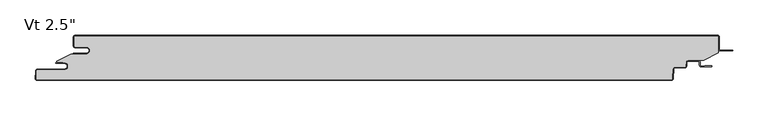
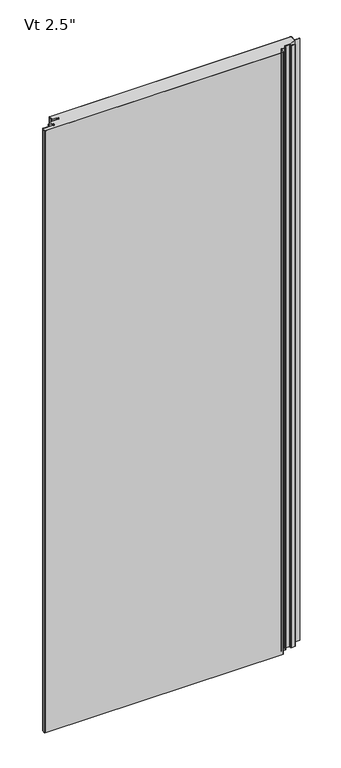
"""IFC4 building model written with IfcOpenShell, lengths in millimetres: plate geometry."""

import ifcopenshell
import ifcopenshell.guid

model = None  # the IFC model being written
_history = None  # IfcOwnerHistory: only IFC2X3 demands one
_inside = {}  # id of a spatial element -> (the spatial element, [elements in it])
_under = {}  # id of a project, library or spatial element -> (it, [spatial elements below it])
_declared = {}  # id of a project -> (the project, [libraries it declares])
_typed = {}  # id of a type object -> (the type object, [elements of that type])
_made_of = {}  # id of a material, layer set ... -> (it, [elements and type objects made of it])


def new_model(schema):
    """Start an empty IFC model of exactly this schema.

    Asked for "IFC4X3", IfcOpenShell would pick the latest addendum, in which some entities
    have other attributes; the version numbers below select the first issue.
    IFC2X3 requires an IfcOwnerHistory on every rooted entity: one is made here for all.
    """
    global model, _history
    if schema == "IFC4X3":
        model = ifcopenshell.file(schema_version=(4, 3, 0, 0))
    else:
        model = ifcopenshell.file(schema=schema)
    _inside.clear()
    _under.clear()
    _declared.clear()
    _typed.clear()
    _made_of.clear()
    _history = None
    if model.schema == "IFC2X3":
        org = make("IfcOrganization", Name="unknown")
        user = make(
            "IfcPersonAndOrganization",
            ThePerson=make("IfcPerson", FamilyName="unknown"),
            TheOrganization=org,
        )
        app = make(
            "IfcApplication",
            ApplicationDeveloper=org,
            Version="unknown",
            ApplicationFullName="unknown",
            ApplicationIdentifier="unknown",
        )
        _history = make(
            "IfcOwnerHistory",
            OwningUser=user,
            OwningApplication=app,
            ChangeAction="ADDED",
            CreationDate=0,
        )
    return model


def make(cls, **values):
    """One entity of the class cls with the attributes given. An attribute that is None is left unset."""
    return model.create_entity(
        cls, **{name: value for name, value in values.items() if value is not None}
    )


def rooted(cls, **values):
    """An entity with a GlobalId (a new one), such as an element, a storey or a relation."""
    return make(cls, GlobalId=ifcopenshell.guid.new(), OwnerHistory=_history, **values)


def si_unit(unit_type, name, prefix=None):
    """IfcSIUnit, for example si_unit("LENGTHUNIT", "METRE", prefix="MILLI")."""
    return make("IfcSIUnit", UnitType=unit_type, Prefix=prefix, Name=name)


def assignment(units):
    """IfcUnitAssignment: the units of a project."""
    return None if units is None else make("IfcUnitAssignment", Units=units)


def point(xyz):
    """IfcCartesianPoint."""
    return None if xyz is None else make("IfcCartesianPoint", Coordinates=xyz)


def direction(xyz):
    """IfcDirection."""
    return None if xyz is None else make("IfcDirection", DirectionRatios=xyz)


def frame(location, z_axis=None, x_axis=None):
    """IfcAxis2Placement3D, a coordinate frame: its origin and axes. An axis left out is left unset."""
    return make(
        "IfcAxis2Placement3D",
        Location=point(location),
        Axis=direction(z_axis),
        RefDirection=direction(x_axis),
    )


def frame_2d(location, x_axis=None):
    """IfcAxis2Placement2D, a coordinate frame in the plane: its origin and x axis."""
    return make(
        "IfcAxis2Placement2D", Location=point(location), RefDirection=direction(x_axis)
    )


def origin():
    """The frame at (0, 0, 0) with its axes left unset."""
    return frame((0.0, 0.0, 0.0))


def origin_with_axes():
    """The frame at (0, 0, 0) with the z axis (0, 0, 1) and the x axis (1, 0, 0) written out."""
    return frame((0.0, 0.0, 0.0), z_axis=(0.0, 0.0, 1.0), x_axis=(1.0, 0.0, 0.0))


def place(relative_to, where):
    """IfcLocalPlacement: puts the frame where relative to a parent placement (None: the world)."""
    return make(
        "IfcLocalPlacement", PlacementRelTo=relative_to, RelativePlacement=where
    )


def context(
    kind, dimensions, precision=None, world=None, true_north=None, identifier=None
):
    """IfcGeometricRepresentationContext, for example the 3D "Model" context."""
    return make(
        "IfcGeometricRepresentationContext",
        ContextIdentifier=identifier,
        ContextType=kind,
        CoordinateSpaceDimension=dimensions,
        Precision=precision,
        WorldCoordinateSystem=world,
        TrueNorth=true_north,
    )


def project(units=None, contexts=None):
    """IfcProject with its units and contexts."""
    return rooted(
        "IfcProject",
        Name="project",
        RepresentationContexts=contexts,
        UnitsInContext=assignment(units),
    )


def spatial(cls, under=None, at=None, **own):
    """A site, building, storey or space (cls), placed at a placement, below another one or the project."""
    s = rooted(cls, ObjectPlacement=at, **own)
    if under is not None:
        _under.setdefault(under.id(), (under, []))[1].append(s)
    return s


def polyline(points):
    """IfcPolyline through the points."""
    return make("IfcPolyline", Points=[point(p) for p in points])


def circle_curve(where, radius):
    """IfcCircle in the frame where."""
    return make("IfcCircle", Position=where, Radius=radius)


def ellipse_curve(where, semi_axis1, semi_axis2):
    """IfcEllipse in the frame where."""
    return make(
        "IfcEllipse", Position=where, SemiAxis1=semi_axis1, SemiAxis2=semi_axis2
    )


def trimmed(basis, trim1, trim2, sense, master):
    """IfcTrimmedCurve: the piece of a basis curve between two trims."""
    return make(
        "IfcTrimmedCurve",
        BasisCurve=basis,
        Trim1=trim1,
        Trim2=trim2,
        SenseAgreement=sense,
        MasterRepresentation=master,
    )


def segment(curve, same_sense, transition):
    """IfcCompositeCurveSegment."""
    return make(
        "IfcCompositeCurveSegment",
        Transition=transition,
        SameSense=same_sense,
        ParentCurve=curve,
    )


def composite_curve(segments, self_intersect=None):
    """IfcCompositeCurve: segments joined end to end."""
    return make("IfcCompositeCurve", Segments=segments, SelfIntersect=self_intersect)


def outline(outer, holes=None, kind="AREA"):
    """IfcArbitraryClosedProfileDef: a profile drawn as a closed curve; with holes, ...WithVoids."""
    if holes is None:
        return make("IfcArbitraryClosedProfileDef", ProfileType=kind, OuterCurve=outer)
    return make(
        "IfcArbitraryProfileDefWithVoids",
        ProfileType=kind,
        OuterCurve=outer,
        InnerCurves=holes,
    )


def extrude(swept, where, along, depth):
    """IfcExtrudedAreaSolid: the profile swept, set in the frame where, extruded along a direction by depth."""
    return make(
        "IfcExtrudedAreaSolid",
        SweptArea=swept,
        Position=where,
        ExtrudedDirection=direction(along),
        Depth=depth,
    )


def shape(context_of_items, identifier, shape_type, items):
    """IfcShapeRepresentation: the items that make up one representation, for example the "Body"."""
    return make(
        "IfcShapeRepresentation",
        ContextOfItems=context_of_items,
        RepresentationIdentifier=identifier,
        RepresentationType=shape_type,
        Items=items,
    )


def source(mapping_origin, context_of_items, identifier, shape_type, items):
    """IfcRepresentationMap: a shape defined once, which mapped items show again and again."""
    return make(
        "IfcRepresentationMap",
        MappingOrigin=mapping_origin,
        MappedRepresentation=shape(context_of_items, identifier, shape_type, items),
    )


def transform(
    local_origin,
    x_axis=None,
    y_axis=None,
    z_axis=None,
    scale=None,
    scale2=None,
    scale3=None,
    uniform=True,
):
    """IfcCartesianTransformationOperator3D, or its non-uniform kind. x_axis, y_axis, z_axis: its Axis1, 2, 3."""
    if uniform:
        return make(
            "IfcCartesianTransformationOperator3D",
            Axis1=direction(x_axis),
            Axis2=direction(y_axis),
            LocalOrigin=point(local_origin),
            Scale=scale,
            Axis3=direction(z_axis),
        )
    return make(
        "IfcCartesianTransformationOperator3DnonUniform",
        Axis1=direction(x_axis),
        Axis2=direction(y_axis),
        LocalOrigin=point(local_origin),
        Scale=scale,
        Axis3=direction(z_axis),
        Scale2=scale2,
        Scale3=scale3,
    )


def mapped(mapping_source, mapping_target):
    """IfcMappedItem: shows the shape of a source again, moved by a transform."""
    return make(
        "IfcMappedItem", MappingSource=mapping_source, MappingTarget=mapping_target
    )


def made_of(thing, what):
    """Note that an element or type object is made of a material, layer set ...; save() writes the relation."""
    if what is not None:
        _made_of.setdefault(what.id(), (what, []))[1].append(thing)
    return thing


def element(
    cls,
    number,
    at=None,
    inside=None,
    cuts=None,
    type_object=None,
    material=None,
    context=None,
    identifier="Body",
    shape_type=None,
    held_by="IfcProductDefinitionShape",
    body=None,
    shapes=None,
    **own,
):
    """One element of the class cls, such as IfcWall. Its Tag is "e" and its number.

    at: its placement. inside: the storey or other place that contains it. cuts: it is an
    opening in that element (IfcRelVoidsElement). A single representation is given by context,
    identifier, shape_type and body (its items); several are given by shapes. held_by: the class
    of the entity that holds the representations. save() writes the other relations.
    """
    e = rooted(cls, Tag="e%d" % number, ObjectPlacement=at, **own)
    if body is not None:
        shapes = [shape(context, identifier, shape_type, body)]
    if shapes is not None:
        e.Representation = make(held_by, Representations=shapes)
    if inside is not None:
        _inside.setdefault(inside.id(), (inside, []))[1].append(e)
    if cuts is not None:
        rooted(
            "IfcRelVoidsElement", RelatingBuildingElement=cuts, RelatedOpeningElement=e
        )
    if type_object is not None:
        _typed.setdefault(type_object.id(), (type_object, []))[1].append(e)
    return made_of(e, material)


def aggregate(whole, parts):
    """IfcRelAggregates: a whole, such as a stair, and the parts it consists of."""
    return rooted("IfcRelAggregates", RelatingObject=whole, RelatedObjects=parts)


def save(model, path):
    """Write the relations noted so far, then the file.

    IfcRelAggregates (storeys below a building ...), IfcRelContainedInSpatialStructure (elements
    in a storey), IfcRelDefinesByType, IfcRelAssociatesMaterial and IfcRelDeclares: one each for
    every whole, place, type object, material and project.
    """
    for whole, parts in _under.values():
        aggregate(whole, parts)
    for where, things in _inside.values():
        rooted(
            "IfcRelContainedInSpatialStructure",
            RelatedElements=things,
            RelatingStructure=where,
        )
    for kind, things in _typed.values():
        rooted("IfcRelDefinesByType", RelatedObjects=things, RelatingType=kind)
    for what, things in _made_of.values():
        rooted("IfcRelAssociatesMaterial", RelatedObjects=things, RelatingMaterial=what)
    for by, libraries in _declared.values():
        rooted("IfcRelDeclares", RelatingContext=by, RelatedDefinitions=libraries)
    model.write(path)


def plane_surface(at):
    """IfcPlane: the flat surface through the origin of the frame at, square to its z axis."""
    return make("IfcPlane", Position=at)


def cylinder_surface(at, radius):
    """IfcCylindricalSurface: all points at the distance radius from the z axis of the frame at."""
    return make("IfcCylindricalSurface", Position=at, Radius=radius)


def revolved_surface(curve, axis_point, axis_direction):
    """IfcSurfaceOfRevolution: the curve turned about the line through axis_point along axis_direction."""
    return make(
        "IfcSurfaceOfRevolution",
        SweptCurve=make("IfcArbitraryOpenProfileDef", ProfileType="CURVE", Curve=curve),
        AxisPosition=make("IfcAxis1Placement", Location=point(axis_point), Axis=direction(axis_direction)),
    )


def extruded_surface(curve, direction_of_extrusion, depth):
    """IfcSurfaceOfLinearExtrusion: the curve pushed along a direction by depth."""
    return make(
        "IfcSurfaceOfLinearExtrusion",
        SweptCurve=make("IfcArbitraryOpenProfileDef", ProfileType="CURVE", Curve=curve),
        ExtrudedDirection=direction(direction_of_extrusion),
        Depth=depth,
    )


def advanced_brep(points, edges, surfaces, faces):
    """IfcAdvancedBrep: a solid bounded by faces that lie on surfaces and meet in shared edges.

    An edge is (start, end): straight between two places in points (the first is 0);
    or (start, end, curve); or (start, end, curve, False) where it runs against its curve.
    A face is (place in surfaces, loops), or (place, loops, False) where it looks against
    its surface's normal. A loop lists edges by number (the first is 1), with a minus sign
    where the edge is run from its end to its start. The first loop is the outer one.
    """
    corners = [point(p) for p in points]
    vertices = [make("IfcVertexPoint", VertexGeometry=c) for c in corners]
    made = []
    for start, end, *more in edges:
        made.append(
            make(
                "IfcEdgeCurve",
                EdgeStart=vertices[start],
                EdgeEnd=vertices[end],
                EdgeGeometry=more[0] if more else make("IfcPolyline", Points=[corners[start], corners[end]]),
                SameSense=more[1] if len(more) > 1 else True,
            )
        )
    hull = []
    for where, loops, *sense in faces:
        bounds = []
        for j, loop in enumerate(loops):
            ring = [make("IfcOrientedEdge", EdgeElement=made[abs(k) - 1], Orientation=k > 0) for k in loop]
            bounds.append(
                make(
                    "IfcFaceOuterBound" if j == 0 else "IfcFaceBound",
                    Bound=make("IfcEdgeLoop", EdgeList=ring),
                    Orientation=True,
                )
            )
        hull.append(make("IfcAdvancedFace", Bounds=bounds, FaceSurface=surfaces[where], SameSense=sense[0] if sense else True))
    return make("IfcAdvancedBrep", Outer=make("IfcClosedShell", CfsFaces=hull))


def plate_7129748d(model_context):
    return source(origin(), model_context, "Body", "SolidModel", [
        extrude(outline(composite_curve([segment(polyline([(-438.1437502, -16.4625), (-454.0187502, -16.4625)]), True, "CONTINUOUS"), segment(trimmed(circle_curve(frame_2d((-454.0187502, -15.08125)), 1.38125), [point((-454.0187502, -16.4625))], [point((-455.4000002, -15.08125))], False, "CARTESIAN"), True, "CONTINUOUS"), segment(polyline([(-455.4000002, -15.08125), (-455.4000002, -2.38125)]), True, "CONTINUOUS"), segment(trimmed(circle_curve(frame_2d((-454.0187502, -2.38125)), 1.38125), [point((-455.4000002, -2.38125))], [point((-454.0187502, -1.0))], False, "CARTESIAN"), True, "CONTINUOUS"), segment(polyline([(-454.0187502, -1.0), (454.0312498, -1.0)]), True, "CONTINUOUS"), segment(trimmed(circle_curve(frame_2d((454.0312498, -2.38125)), 1.38125), [point((454.0312498, -1.0))], [point((455.4124998, -2.38125))], False, "CARTESIAN"), True, "CONTINUOUS"), segment(polyline([(455.4124998, -2.38125), (455.4124998, -24.9057308), (434.5955432, -35.5125), (412.1540781, -35.5125)]), True, "CONTINUOUS"), segment(trimmed(circle_curve(frame_2d((412.1540781, -38.1)), 2.5875), [point((412.1540781, -35.5125))], [point((409.5701242, -37.9645807))], True, "CARTESIAN"), True, "CONTINUOUS"), segment(polyline([(409.5701242, -37.9645807), (409.2680479, -43.728539)]), True, "CONTINUOUS"), segment(trimmed(circle_curve(frame_2d((407.8886909, -43.65625)), 1.38125), [point((409.2680479, -43.728539))], [point((407.8886909, -45.0375))], False, "CARTESIAN"), True, "CONTINUOUS"), segment(polyline([(407.8886909, -45.0375), (393.7323845, -45.0375)]), True, "CONTINUOUS"), segment(trimmed(circle_curve(frame_2d((393.7323845, -47.625)), 2.5875), [point((393.7323845, -45.0375))], [point((391.1484306, -47.4895807))], True, "CARTESIAN"), True, "CONTINUOUS"), segment(polyline([(391.1484306, -47.4895807), (390.4303676, -61.191039)]), True, "CONTINUOUS"), segment(trimmed(circle_curve(frame_2d((389.0510105, -61.11875)), 1.38125), [point((390.4303676, -61.191039))], [point((389.0510105, -62.5))], False, "CARTESIAN"), True, "CONTINUOUS"), segment(polyline([(389.0510105, -62.5), (-507.8799537, -62.5)]), True, "CONTINUOUS"), segment(trimmed(circle_curve(frame_2d((-507.8799537, -61.11875)), 1.38125), [point((-507.8799537, -62.5))], [point((-509.2593107, -61.046461))], False, "CARTESIAN"), True, "CONTINUOUS"), segment(polyline([(-509.2593107, -61.046461), (-508.6769293, -49.933961)]), True, "CONTINUOUS"), segment(trimmed(circle_curve(frame_2d((-507.2975722, -50.00625)), 1.38125), [point((-508.6769293, -49.933961))], [point((-507.2975722, -48.625))], False, "CARTESIAN"), True, "CONTINUOUS"), segment(polyline([(-507.2975722, -48.625), (-469.1142676, -48.625)]), True, "CONTINUOUS"), segment(trimmed(circle_curve(frame_2d((-469.1142676, -43.65625)), 4.96875), [point((-469.1142676, -48.625))], [point((-469.1142676, -38.6875))], True, "CARTESIAN"), True, "CONTINUOUS"), segment(polyline([(-469.1142676, -38.6875), (-470.7017676, -38.89375), (-470.7017676, -38.1), (-480.2125002, -38.1), (-480.2125002, -36.5326309), (-460.3260924, -26.4), (-438.1437502, -26.4)]), True, "CONTINUOUS"), segment(trimmed(circle_curve(frame_2d((-438.1437502, -21.43125)), 4.96875), [point((-438.1437502, -26.4))], [point((-438.1437502, -16.4625))], True, "CARTESIAN"), True, "CONTINUOUS")], self_intersect=False)), origin_with_axes(), (0.0, 0.0, 1.0), 2400.0),
        extrude(outline(composite_curve([segment(polyline([(-456.4000002, -25.4), (-438.1437502, -25.4)]), True, "CONTINUOUS"), segment(trimmed(circle_curve(frame_2d((-438.1437502, -21.43125)), 3.96875), [point((-438.1437502, -25.4))], [point((-438.1437502, -17.4625))], True, "CARTESIAN"), True, "CONTINUOUS"), segment(polyline([(-438.1437502, -17.4625), (-454.0187502, -17.4625)]), True, "CONTINUOUS"), segment(trimmed(circle_curve(frame_2d((-454.0187502, -15.08125)), 2.38125), [point((-454.0187502, -17.4625))], [point((-456.4000002, -15.08125))], False, "CARTESIAN"), True, "CONTINUOUS"), segment(polyline([(-456.4000002, -15.08125), (-456.4000002, -2.38125)]), True, "CONTINUOUS"), segment(trimmed(circle_curve(frame_2d((-454.0187502, -2.38125)), 2.38125), [point((-456.4000002, -2.38125))], [point((-454.0187502, 0.0))], False, "CARTESIAN"), True, "CONTINUOUS"), segment(polyline([(-454.0187502, 0.0), (454.0312498, 0.0)]), True, "CONTINUOUS"), segment(trimmed(circle_curve(frame_2d((454.0312498, -2.38125)), 2.38125), [point((454.0312498, 0.0))], [point((456.4124998, -2.38125))], False, "CARTESIAN"), True, "CONTINUOUS"), segment(polyline([(456.4124998, -2.38125), (456.4124998, -19.446875)]), True, "CONTINUOUS"), segment(trimmed(circle_curve(frame_2d((457.9999998, -19.446875)), 1.5875), [point((456.4124998, -19.446875))], [point((457.9999998, -21.034375))], True, "CARTESIAN"), True, "CONTINUOUS"), segment(polyline([(457.9999998, -21.034375), (475.4624998, -21.034375), (475.4624998, -22.034375), (457.9999998, -22.034375)]), True, "CONTINUOUS"), segment(trimmed(circle_curve(frame_2d((457.9999998, -19.446875)), 2.5875), [point((457.9999998, -22.034375))], [point((455.4124998, -19.446875))], False, "CARTESIAN"), True, "CONTINUOUS"), segment(polyline([(455.4124998, -19.446875), (455.4124998, -2.38125)]), True, "CONTINUOUS"), segment(trimmed(circle_curve(frame_2d((454.0312498, -2.38125)), 1.38125), [point((455.4124998, -2.38125))], [point((454.0312498, -1.0))], True, "CARTESIAN"), True, "CONTINUOUS"), segment(polyline([(454.0312498, -1.0), (-454.0187502, -1.0)]), True, "CONTINUOUS"), segment(trimmed(circle_curve(frame_2d((-454.0187502, -2.38125)), 1.38125), [point((-454.0187502, -1.0))], [point((-455.4000002, -2.38125))], True, "CARTESIAN"), True, "CONTINUOUS"), segment(polyline([(-455.4000002, -2.38125), (-455.4000002, -15.08125)]), True, "CONTINUOUS"), segment(trimmed(circle_curve(frame_2d((-454.0187502, -15.08125)), 1.38125), [point((-455.4000002, -15.08125))], [point((-454.0187502, -16.4625))], True, "CARTESIAN"), True, "CONTINUOUS"), segment(polyline([(-454.0187502, -16.4625), (-438.1437502, -16.4625)]), True, "CONTINUOUS"), segment(trimmed(circle_curve(frame_2d((-438.1437502, -21.43125)), 4.96875), [point((-438.1437502, -16.4625))], [point((-438.1437502, -26.4))], False, "CARTESIAN"), True, "CONTINUOUS"), segment(polyline([(-438.1437502, -26.4), (-456.4000002, -26.4), (-456.4000002, -25.4)]), True, "CONTINUOUS")], self_intersect=False)), origin_with_axes(), (0.0, 0.0, 1.0), 2400.0),
        advanced_brep(
        [(-480.4252051, -38.1, 2400.0), (-480.4252051, -39.6875, 2400.0), (-469.1142676, -39.6875, 2400.0), (-469.1142676, -47.625, 2400.0), (-507.2975722, -47.625, 2400.0), (-509.6755588, -49.881625, 2400.0), (-510.2579402, -60.994125, 2400.0), (-507.8799537, -63.5, 2400.0), (389.0510105, -63.5, 2400.0), (391.4289971, -61.243375, 2400.0), (392.1470601, -47.5419167, 2400.0), (393.7323845, -46.0375, 2400.0), (407.8886909, -46.0375, 2400.0), (410.2666775, -43.780875, 2400.0), (410.5687537, -38.0169167, 2400.0), (412.1540781, -36.5125, 2400.0), (427.0294824, -36.5125, 2400.0), (428.6169824, -38.1, 2400.0), (428.6169824, -42.2671875, 2400.0), (430.9982324, -44.6484375, 2400.0), (445.489853, -44.6484375, 2400.0), (445.489853, -42.8546875, 2400.0), (435.7607324, -42.8546875, 2400.0), (435.7607324, -43.6484375, 2400.0), (430.9982324, -43.6484375, 2400.0), (429.6169824, -42.2671875, 2400.0), (429.6169824, -38.1, 2400.0), (427.0294824, -35.5125, 2400.0), (412.1540781, -35.5125, 2400.0), (409.5701242, -37.9645807, 2400.0), (409.2680479, -43.728539, 2400.0), (407.8886909, -45.0375, 2400.0), (393.7323845, -45.0375, 2400.0), (391.1484306, -47.4895807, 2400.0), (390.4303676, -61.191039, 2400.0), (389.0510105, -62.5, 2400.0), (-507.8799537, -62.5, 2400.0), (-509.2593107, -61.046461, 2400.0), (-508.6769293, -49.933961, 2400.0), (-507.2975722, -48.625, 2400.0), (-469.1142676, -48.625, 2400.0), (-469.1142676, -38.6875, 2400.0), (-470.7017676, -38.89375, 2400.0), (-470.7017676, -38.1, 2400.0), (-480.4252051, -38.1, 0.0), (-470.7017676, -38.1, 0.0), (-470.7017676, -38.89375, 0.0), (-469.1142676, -38.6875, 0.0), (-469.1142676, -48.625, 0.0), (-507.2975722, -48.625, 0.0), (-508.6769293, -49.933961, 0.0), (-509.2593107, -61.046461, 0.0), (-507.8799537, -62.5, 0.0), (389.0510105, -62.5, 0.0), (390.4303676, -61.191039, 0.0), (391.1484306, -47.4895807, 0.0), (393.7323845, -45.0375, 0.0), (407.8886909, -45.0375, 0.0), (409.2680479, -43.728539, 0.0), (409.5701242, -37.9645807, 0.0), (412.1540781, -35.5125, 0.0), (427.0294824, -35.5125, 0.0), (429.6169824, -38.1, 0.0), (429.6169824, -42.2671875, 0.0), (430.9982324, -43.6484375, 0.0), (435.7607324, -43.6484375, 0.0), (435.7607324, -42.8546875, 0.0), (445.489853, -42.8546875, 0.0), (445.489853, -44.6484375, 0.0), (430.9982324, -44.6484375, 0.0), (428.6169824, -42.2671875, 0.0), (428.6169824, -38.1, 0.0), (427.0294824, -36.5125, 0.0), (412.1540781, -36.5125, 0.0), (410.5687537, -38.0169167, 0.0), (410.2666775, -43.780875, 0.0), (407.8886909, -46.0375, 0.0), (393.7323845, -46.0375, 0.0), (392.1470601, -47.5419167, 0.0), (391.4289971, -61.243375, 0.0), (389.0510105, -63.5, 0.0), (-507.8799537, -63.5, 0.0), (-510.2579402, -60.994125, 0.0), (-509.6755588, -49.881625, 0.0), (-507.2975722, -47.625, 0.0), (-469.1142676, -47.625, 0.0), (-469.1142676, -39.6875, 0.0), (-480.4252051, -39.6875, 0.0)],
        [
            (0, 1, circle_curve(frame((-480.4252051, -38.89375, 2400.0), z_axis=(0.0, 0.0, 1.0), x_axis=(-1.0, 0.0, 0.0)), 0.79375)),
            (1, 2),
            (2, 3, circle_curve(frame((-469.1142676, -43.65625, 2400.0), z_axis=(0.0, 0.0, -1.0), x_axis=(-1.0, 0.0, 0.0)), 3.96875)),
            (3, 4),
            (4, 5, circle_curve(frame((-507.2975722, -50.00625, 2400.0), z_axis=(0.0, 0.0, 1.0), x_axis=(-1.0, 0.0, 0.0)), 2.38125)),
            (5, 6),
            (6, 7, circle_curve(frame((-507.8799537, -61.11875, 2400.0), z_axis=(0.0, 0.0, 1.0), x_axis=(-1.0, 0.0, 0.0)), 2.38125)),
            (7, 8),
            (8, 9, circle_curve(frame((389.0510105, -61.11875, 2400.0), z_axis=(0.0, 0.0, 1.0), x_axis=(-1.0, 0.0, 0.0)), 2.38125)),
            (9, 10),
            (10, 11, circle_curve(frame((393.7323845, -47.625, 2400.0), z_axis=(0.0, 0.0, -1.0), x_axis=(-1.0, 0.0, 0.0)), 1.5875)),
            (11, 12),
            (12, 13, circle_curve(frame((407.8886909, -43.65625, 2400.0), z_axis=(0.0, 0.0, 1.0), x_axis=(-1.0, 0.0, 0.0)), 2.38125)),
            (13, 14),
            (14, 15, circle_curve(frame((412.1540781, -38.1, 2400.0), z_axis=(0.0, 0.0, -1.0), x_axis=(-1.0, 0.0, 0.0)), 1.5875)),
            (15, 16),
            (16, 17, circle_curve(frame((427.0294824, -38.1, 2400.0), z_axis=(0.0, 0.0, -1.0), x_axis=(-1.0, 0.0, 0.0)), 1.5875)),
            (17, 18),
            (18, 19, circle_curve(frame((430.9982324, -42.2671875, 2400.0), z_axis=(0.0, 0.0, 1.0), x_axis=(-1.0, 0.0, 0.0)), 2.38125)),
            (19, 20),
            (20, 21, ellipse_curve(frame((445.489853, -43.7515625, 2400.0), z_axis=(0.0, 0.0, 1.0), x_axis=(0.0, 1.0, 0.0)), 0.896875, 0.7852275)),
            (21, 22),
            (22, 23),
            (23, 24),
            (24, 25, circle_curve(frame((430.9982324, -42.2671875, 2400.0), z_axis=(0.0, 0.0, -1.0), x_axis=(-1.0, 0.0, 0.0)), 1.38125)),
            (25, 26),
            (26, 27, circle_curve(frame((427.0294824, -38.1, 2400.0), z_axis=(0.0, 0.0, 1.0), x_axis=(-1.0, 0.0, 0.0)), 2.5875)),
            (27, 28),
            (28, 29, circle_curve(frame((412.1540781, -38.1, 2400.0), z_axis=(0.0, 0.0, 1.0), x_axis=(-1.0, 0.0, 0.0)), 2.5875)),
            (29, 30),
            (30, 31, circle_curve(frame((407.8886909, -43.65625, 2400.0), z_axis=(0.0, 0.0, -1.0), x_axis=(-1.0, 0.0, 0.0)), 1.38125)),
            (31, 32),
            (32, 33, circle_curve(frame((393.7323845, -47.625, 2400.0), z_axis=(0.0, 0.0, 1.0), x_axis=(-1.0, 0.0, 0.0)), 2.5875)),
            (33, 34),
            (34, 35, circle_curve(frame((389.0510105, -61.11875, 2400.0), z_axis=(0.0, 0.0, -1.0), x_axis=(-1.0, 0.0, 0.0)), 1.38125)),
            (35, 36),
            (36, 37, circle_curve(frame((-507.8799537, -61.11875, 2400.0), z_axis=(0.0, 0.0, -1.0), x_axis=(-1.0, 0.0, 0.0)), 1.38125)),
            (37, 38),
            (38, 39, circle_curve(frame((-507.2975722, -50.00625, 2400.0), z_axis=(0.0, 0.0, -1.0), x_axis=(-1.0, 0.0, 0.0)), 1.38125)),
            (39, 40),
            (40, 41, circle_curve(frame((-469.1142676, -43.65625, 2400.0), z_axis=(0.0, 0.0, 1.0), x_axis=(-1.0, 0.0, 0.0)), 4.96875)),
            (41, 42),
            (42, 43),
            (43, 0),
            (44, 45),
            (45, 46),
            (46, 47),
            (47, 48, circle_curve(frame((-469.1142676, -43.65625, 0.0), z_axis=(0.0, 0.0, -1.0), x_axis=(-1.0, 0.0, 0.0)), 4.96875)),
            (48, 49),
            (49, 50, circle_curve(frame((-507.2975722, -50.00625, 0.0), z_axis=(0.0, 0.0, 1.0), x_axis=(-1.0, 0.0, 0.0)), 1.38125)),
            (50, 51),
            (51, 52, circle_curve(frame((-507.8799537, -61.11875, 0.0), z_axis=(0.0, 0.0, 1.0), x_axis=(-1.0, 0.0, 0.0)), 1.38125)),
            (52, 53),
            (53, 54, circle_curve(frame((389.0510105, -61.11875, 0.0), z_axis=(0.0, 0.0, 1.0), x_axis=(-1.0, 0.0, 0.0)), 1.38125)),
            (54, 55),
            (55, 56, circle_curve(frame((393.7323845, -47.625, 0.0), z_axis=(0.0, 0.0, -1.0), x_axis=(-1.0, 0.0, 0.0)), 2.5875)),
            (56, 57),
            (57, 58, circle_curve(frame((407.8886909, -43.65625, 0.0), z_axis=(0.0, 0.0, 1.0), x_axis=(-1.0, 0.0, 0.0)), 1.38125)),
            (58, 59),
            (59, 60, circle_curve(frame((412.1540781, -38.1, 0.0), z_axis=(0.0, 0.0, -1.0), x_axis=(-1.0, 0.0, 0.0)), 2.5875)),
            (60, 61),
            (61, 62, circle_curve(frame((427.0294824, -38.1, 0.0), z_axis=(0.0, 0.0, -1.0), x_axis=(-1.0, 0.0, 0.0)), 2.5875)),
            (62, 63),
            (63, 64, circle_curve(frame((430.9982324, -42.2671875, 0.0), z_axis=(0.0, 0.0, 1.0), x_axis=(-1.0, 0.0, 0.0)), 1.38125)),
            (64, 65),
            (65, 66),
            (66, 67),
            (67, 68, ellipse_curve(frame((445.489853, -43.7515625, 0.0), z_axis=(0.0, 0.0, -1.0), x_axis=(0.0, 1.0, 0.0)), 0.896875, 0.7852275)),
            (68, 69),
            (69, 70, circle_curve(frame((430.9982324, -42.2671875, 0.0), z_axis=(0.0, 0.0, -1.0), x_axis=(-1.0, 0.0, 0.0)), 2.38125)),
            (70, 71),
            (71, 72, circle_curve(frame((427.0294824, -38.1, 0.0), z_axis=(0.0, 0.0, 1.0), x_axis=(-1.0, 0.0, 0.0)), 1.5875)),
            (72, 73),
            (73, 74, circle_curve(frame((412.1540781, -38.1, 0.0), z_axis=(0.0, 0.0, 1.0), x_axis=(-1.0, 0.0, 0.0)), 1.5875)),
            (74, 75),
            (75, 76, circle_curve(frame((407.8886909, -43.65625, 0.0), z_axis=(0.0, 0.0, -1.0), x_axis=(-1.0, 0.0, 0.0)), 2.38125)),
            (76, 77),
            (77, 78, circle_curve(frame((393.7323845, -47.625, 0.0), z_axis=(0.0, 0.0, 1.0), x_axis=(-1.0, 0.0, 0.0)), 1.5875)),
            (78, 79),
            (79, 80, circle_curve(frame((389.0510105, -61.11875, 0.0), z_axis=(0.0, 0.0, -1.0), x_axis=(-1.0, 0.0, 0.0)), 2.38125)),
            (80, 81),
            (81, 82, circle_curve(frame((-507.8799537, -61.11875, 0.0), z_axis=(0.0, 0.0, -1.0), x_axis=(-1.0, 0.0, 0.0)), 2.38125)),
            (82, 83),
            (83, 84, circle_curve(frame((-507.2975722, -50.00625, 0.0), z_axis=(0.0, 0.0, -1.0), x_axis=(-1.0, 0.0, 0.0)), 2.38125)),
            (84, 85),
            (85, 86, circle_curve(frame((-469.1142676, -43.65625, 0.0), z_axis=(0.0, 0.0, 1.0), x_axis=(-1.0, 0.0, 0.0)), 3.96875)),
            (86, 87),
            (87, 44, circle_curve(frame((-480.4252051, -38.89375, 0.0), z_axis=(0.0, 0.0, -1.0), x_axis=(-1.0, 0.0, 0.0)), 0.79375)),
            (43, 45),
            (44, 0),
            (87, 1),
            (86, 2),
            (85, 3),
            (84, 4),
            (83, 5),
            (82, 6),
            (81, 7),
            (80, 8),
            (79, 9),
            (78, 10),
            (77, 11),
            (76, 12),
            (75, 13),
            (74, 14),
            (73, 15),
            (38, 50),
            (49, 39),
            (37, 51),
            (36, 52),
            (35, 53),
            (34, 54),
            (33, 55),
            (32, 56),
            (31, 57),
            (30, 58),
            (29, 59),
            (28, 60),
            (23, 65),
            (64, 24),
            (63, 25),
            (62, 26),
            (72, 16),
            (71, 17),
            (70, 18),
            (69, 19),
            (68, 20),
            (27, 61),
            (48, 40),
            (47, 41),
            (42, 46),
            (22, 66),
            (21, 67),
        ],
        [
            plane_surface(frame((0.0062498, -63.5, 2400.0), z_axis=(0.0, 0.0, 1.0), x_axis=(0.0, -1.0, 0.0))),
            plane_surface(frame((0.0062498, -63.5, 0.0), z_axis=(0.0, 0.0, -1.0), x_axis=(0.0, -1.0, 0.0))),
            plane_surface(frame((-480.4252051, -38.1, 2400.0), z_axis=(0.0, 1.0, 0.0), x_axis=(0.0, 0.0, -1.0))),
            cylinder_surface(frame((-480.4252051, -38.89375, 2400.0), z_axis=(0.0, 0.0, 1.0), x_axis=(-1.0, 0.0, 0.0)), 0.79375),
            plane_surface(frame((-469.1142676, -39.6875, 2400.0), z_axis=(0.0, -1.0, 0.0), x_axis=(0.0, 0.0, -1.0))),
            revolved_surface(polyline([(-473.0830176, -43.65625, 0.0), (-473.0830176, -43.65625, 2400.0)]), (-469.1142676, -43.65625, 2400.0), (0.0, 0.0, -1.0)),
            plane_surface(frame((-507.2975722, -47.625, 2400.0), z_axis=(0.0, 1.0, 0.0), x_axis=(0.0, 0.0, -1.0))),
            cylinder_surface(frame((-507.2975722, -50.00625, 2400.0), z_axis=(0.0, 0.0, 1.0), x_axis=(-1.0, 0.0, 0.0)), 2.38125),
            plane_surface(frame((-510.2579402, -60.994125, 2400.0), z_axis=(-0.9986295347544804, 0.05233595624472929, 0.0), x_axis=(0.0, 0.0, -1.0))),
            cylinder_surface(frame((-507.8799537, -61.11875, 2400.0), z_axis=(0.0, 0.0, 1.0), x_axis=(-1.0, 0.0, 0.0)), 2.38125),
            plane_surface(frame((389.0510105, -63.5, 2400.0), z_axis=(0.0, -1.0, 0.0), x_axis=(0.0, 0.0, -1.0))),
            cylinder_surface(frame((389.0510105, -61.11875, 2400.0), z_axis=(0.0, 0.0, 1.0), x_axis=(-1.0, 0.0, 0.0)), 2.38125),
            plane_surface(frame((392.1470601, -47.5419167, 2400.0), z_axis=(0.9986295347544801, -0.05233595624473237, 0.0), x_axis=(0.0, 0.0, -1.0))),
            revolved_surface(polyline([(392.14488450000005, -47.625, 0.0), (392.14488450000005, -47.625, 2400.0)]), (393.7323845, -47.625, 2400.0), (0.0, 0.0, -1.0)),
            plane_surface(frame((407.8886909, -46.0375, 2400.0), z_axis=(0.0, -1.0, 0.0), x_axis=(0.0, 0.0, -1.0))),
            cylinder_surface(frame((407.8886909, -43.65625, 2400.0), z_axis=(0.0, 0.0, 1.0), x_axis=(-1.0, 0.0, 0.0)), 2.38125),
            plane_surface(frame((410.5687537, -38.0169167, 2400.0), z_axis=(0.9986295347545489, -0.05233595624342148, 0.0), x_axis=(0.0, 0.0, -1.0))),
            revolved_surface(polyline([(410.5665781, -38.1, 0.0), (410.5665781, -38.1, 2400.0)]), (412.1540781, -38.1, 2400.0), (0.0, 0.0, -1.0)),
            revolved_surface(polyline([(-508.6788222, -50.00625, 0.0), (-508.6788222, -50.00625, 2400.0)]), (-507.2975722, -50.00625, 2400.0), (0.0, 0.0, -1.0)),
            plane_surface(frame((-508.6769293, -49.933961, 2400.0), z_axis=(0.9986295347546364, -0.05233595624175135, 0.0), x_axis=(0.0, 0.0, -1.0))),
            revolved_surface(polyline([(-509.2612037, -61.11875, 0.0), (-509.2612037, -61.11875, 2400.0)]), (-507.8799537, -61.11875, 2400.0), (0.0, 0.0, -1.0)),
            plane_surface(frame((-507.8799537, -62.5, 2400.0), z_axis=(0.0, 1.0, 0.0), x_axis=(0.0, 0.0, -1.0))),
            revolved_surface(polyline([(387.6697605, -61.11875, 0.0), (387.6697605, -61.11875, 2400.0)]), (389.0510105, -61.11875, 2400.0), (0.0, 0.0, -1.0)),
            plane_surface(frame((390.4303676, -61.191039, 2400.0), z_axis=(-0.9986295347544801, 0.05233595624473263, 0.0), x_axis=(0.0, 0.0, -1.0))),
            cylinder_surface(frame((393.7323845, -47.625, 2400.0), z_axis=(0.0, 0.0, 1.0), x_axis=(-1.0, 0.0, 0.0)), 2.5875),
            plane_surface(frame((393.7323845, -45.0375, 2400.0), z_axis=(0.0, 1.0, 0.0), x_axis=(0.0, 0.0, -1.0))),
            revolved_surface(polyline([(406.50744089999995, -43.65625, 0.0), (406.50744089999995, -43.65625, 2400.0)]), (407.8886909, -43.65625, 2400.0), (0.0, 0.0, -1.0)),
            plane_surface(frame((409.2680479, -43.728539, 2400.0), z_axis=(-0.998629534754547, 0.05233595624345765, 0.0), x_axis=(0.0, 0.0, -1.0))),
            cylinder_surface(frame((412.1540781, -38.1, 2400.0), z_axis=(0.0, 0.0, 1.0), x_axis=(-1.0, 0.0, 0.0)), 2.5875),
            plane_surface(frame((430.9982324, -43.6484375, 2400.0), z_axis=(0.0, 1.0, 0.0), x_axis=(0.0, 0.0, -1.0))),
            revolved_surface(polyline([(429.6169824, -42.2671875, 0.0), (429.6169824, -42.2671875, 2400.0)]), (430.9982324, -42.2671875, 2400.0), (0.0, 0.0, -1.0)),
            plane_surface(frame((429.6169824, -38.1, 2400.0), z_axis=(1.0, 0.0, 0.0), x_axis=(0.0, 0.0, -1.0))),
            plane_surface(frame((427.0294824, -36.5125, 2400.0), z_axis=(0.0, -1.0, 0.0), x_axis=(0.0, 0.0, -1.0))),
            revolved_surface(polyline([(425.44198240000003, -38.1, 0.0), (425.44198240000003, -38.1, 2400.0)]), (427.0294824, -38.1, 2400.0), (0.0, 0.0, -1.0)),
            plane_surface(frame((428.6169824, -42.2671875, 2400.0), z_axis=(-1.0, 0.0, 0.0), x_axis=(0.0, 0.0, -1.0))),
            cylinder_surface(frame((430.9982324, -42.2671875, 2400.0), z_axis=(0.0, 0.0, 1.0), x_axis=(-1.0, 0.0, 0.0)), 2.38125),
            plane_surface(frame((445.489853, -44.6484375, 2400.0), z_axis=(0.0, -1.0, 0.0), x_axis=(0.0, 0.0, -1.0))),
            plane_surface(frame((412.1540781, -35.5125, 2400.0), z_axis=(0.0, 1.0, 0.0), x_axis=(0.0, 0.0, -1.0))),
            cylinder_surface(frame((427.0294824, -38.1, 2400.0), z_axis=(0.0, 0.0, 1.0), x_axis=(-1.0, 0.0, 0.0)), 2.5875),
            plane_surface(frame((-469.1142676, -48.625, 2400.0), z_axis=(0.0, -1.0, 0.0), x_axis=(0.0, 0.0, -1.0))),
            cylinder_surface(frame((-469.1142676, -43.65625, 2400.0), z_axis=(0.0, 0.0, 1.0), x_axis=(-1.0, 0.0, 0.0)), 4.96875),
            plane_surface(frame((-470.7017676, -38.1, 2400.0), z_axis=(1.0, 0.0, 0.0), x_axis=(0.0, 0.0, -1.0))),
            plane_surface(frame((-470.7017676, -38.89375, 2400.0), z_axis=(-0.12883844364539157, 0.9916655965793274, 0.0), x_axis=(0.0, 0.0, -1.0))),
            plane_surface(frame((435.7607324, -43.6484375, 2400.0), z_axis=(-1.0, 0.0, 0.0), x_axis=(0.0, 0.0, -1.0))),
            plane_surface(frame((435.7607324, -42.8546875, 2400.0), z_axis=(0.0, 1.0, 0.0), x_axis=(0.0, 0.0, -1.0))),
            extruded_surface(trimmed(ellipse_curve(frame((445.489853, -43.7515625, 2400.0), z_axis=(0.0, 0.0, -1.0), x_axis=(0.0, 1.0, 0.0)), 0.896875, 0.7852275), [point((445.489853, -42.8546875, 2400.0))], [point((445.489853, -44.6484375, 2400.0))], True, "CARTESIAN"), (0.0, 0.0, -2400.0), 2400.0),
        ],
        [
            (0, [[1, 2, 3, 4, 5, 6, 7, 8, 9, 10, 11, 12, 13, 14, 15, 16, 17, 18, 19, 20, 21, 22, 23, 24, 25, 26, 27, 28, 29, 30, 31, 32, 33, 34, 35, 36, 37, 38, 39, 40, 41, 42, 43, 44]]),
            (1, [[45, 46, 47, 48, 49, 50, 51, 52, 53, 54, 55, 56, 57, 58, 59, 60, 61, 62, 63, 64, 65, 66, 67, 68, 69, 70, 71, 72, 73, 74, 75, 76, 77, 78, 79, 80, 81, 82, 83, 84, 85, 86, 87, 88]]),
            (2, [[89, -45, 90, -44]]),
            (3, [[-90, -88, 91, -1]]),
            (4, [[-91, -87, 92, -2]]),
            (5, [[-92, -86, 93, -3]]),
            (6, [[-93, -85, 94, -4]]),
            (7, [[-94, -84, 95, -5]]),
            (8, [[-95, -83, 96, -6]]),
            (9, [[-96, -82, 97, -7]]),
            (10, [[-97, -81, 98, -8]]),
            (11, [[-98, -80, 99, -9]]),
            (12, [[-99, -79, 100, -10]]),
            (13, [[-100, -78, 101, -11]]),
            (14, [[-101, -77, 102, -12]]),
            (15, [[-102, -76, 103, -13]]),
            (16, [[-103, -75, 104, -14]]),
            (17, [[-104, -74, 105, -15]]),
            (18, [[106, -50, 107, -39]]),
            (19, [[108, -51, -106, -38]]),
            (20, [[109, -52, -108, -37]]),
            (21, [[110, -53, -109, -36]]),
            (22, [[111, -54, -110, -35]]),
            (23, [[112, -55, -111, -34]]),
            (24, [[113, -56, -112, -33]]),
            (25, [[114, -57, -113, -32]]),
            (26, [[115, -58, -114, -31]]),
            (27, [[116, -59, -115, -30]]),
            (28, [[117, -60, -116, -29]]),
            (29, [[118, -65, 119, -24]]),
            (30, [[-119, -64, 120, -25]]),
            (31, [[-120, -63, 121, -26]]),
            (32, [[-105, -73, 122, -16]]),
            (33, [[-122, -72, 123, -17]]),
            (34, [[-123, -71, 124, -18]]),
            (35, [[-124, -70, 125, -19]]),
            (36, [[-125, -69, 126, -20]]),
            (37, [[127, -61, -117, -28]]),
            (38, [[-121, -62, -127, -27]]),
            (39, [[-107, -49, 128, -40]]),
            (40, [[-128, -48, 129, -41]]),
            (41, [[130, -46, -89, -43]]),
            (42, [[-129, -47, -130, -42]]),
            (43, [[131, -66, -118, -23]]),
            (44, [[132, -67, -131, -22]]),
            (45, [[-126, -68, -132, -21]]),
        ],
    ),
    ])


if __name__ == "__main__":
    model = new_model("IFC4")
    model_context = context("Model", 3, world=origin())
    ifc_project = project(units=[si_unit("LENGTHUNIT", "METRE", prefix="MILLI")], contexts=[model_context])
    site = spatial("IfcSite", under=ifc_project)
    building = spatial("IfcBuilding", under=site)
    placement = place(None, origin())
    plate_shape = plate_7129748d(model_context)
    element("IfcPlate", 1, ObjectType="KIP-36-DWHR-R19-CP-Vt-F : Vt 2.5\"", at=placement, inside=building, context=model_context, shape_type="MappedRepresentation", body=[
        mapped(plate_shape, transform((0.0, 0.0, 0.0), x_axis=(1.0, 0.0, 0.0), y_axis=(0.0, 1.0, 0.0), z_axis=(0.0, 0.0, 1.0))),
    ])
    save(model, "model.ifc")
